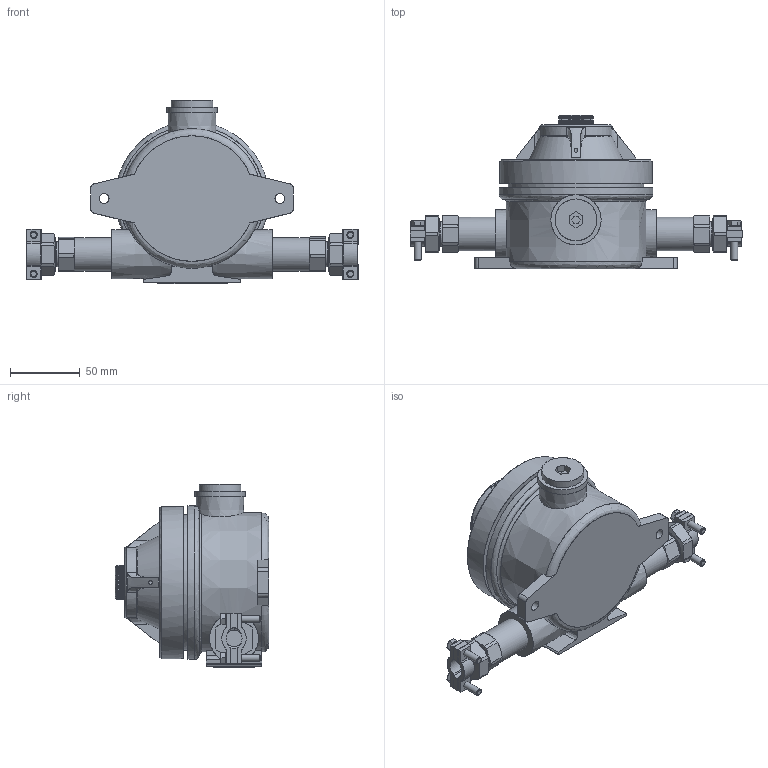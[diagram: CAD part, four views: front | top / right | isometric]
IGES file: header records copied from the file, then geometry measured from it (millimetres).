
Bounding box: 238 x 110.25 x 131.6 mm (x, y, z)
Surface area: 199868.6 mm2 (no closed solid volume)
Topology: 0 solids, 0 shells, 1470 faces, 9194 edges, 9111 vertices
Faces by surface type: bspline 1042, revolution 428
